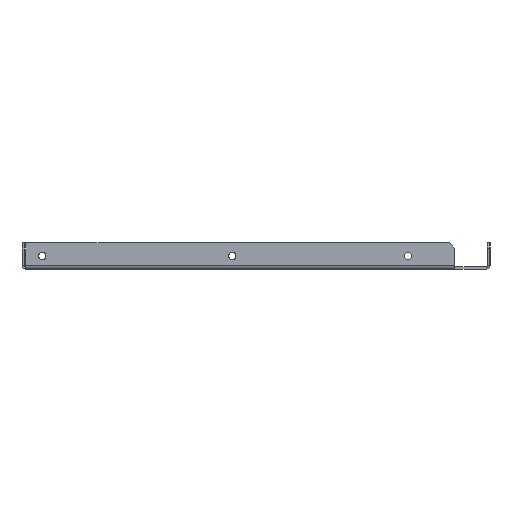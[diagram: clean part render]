
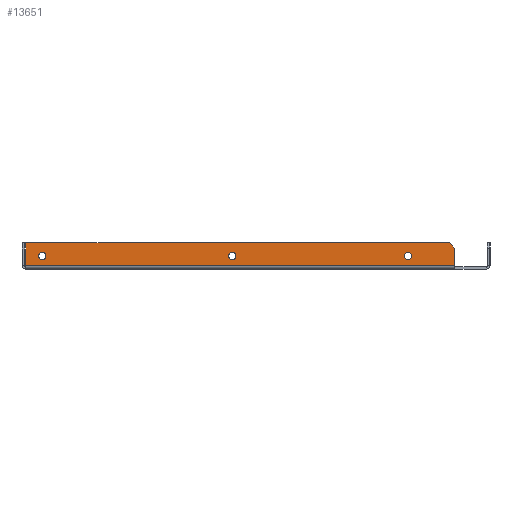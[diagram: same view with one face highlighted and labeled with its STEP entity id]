
A CAD part, left-side view. The second image highlights one B-rep face of the part: STEP entity #13651.
In plain terms, the highlighted planar face has unit normal (-1, 0, 0).
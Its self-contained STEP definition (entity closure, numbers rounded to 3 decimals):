
#5606=CARTESIAN_POINT(' ',(-234.5,-113.25,10.5));
#5607=VERTEX_POINT(' ',#5606);
#5621=CARTESIAN_POINT(' ',(-234.5,-113.25,10.5));
#5626=DIRECTION(' ',(0.,0.,-1.));
#5631=VECTOR(' ',#5626,1.);
#5636=LINE('',#5621,#5631);
#5641=CARTESIAN_POINT(' ',(-234.5,-113.25,0.6));
#5642=VERTEX_POINT(' ',#5641);
#5646=EDGE_CURVE(' ',#5607,#5642,#5636,.T.);
#9446=CARTESIAN_POINT(' ',(-234.5,-113.25,0.6));
#9451=DIRECTION(' ',(0.,1.,0.));
#9456=VECTOR(' ',#9451,1.);
#9461=LINE('',#9446,#9456);
#9466=CARTESIAN_POINT(' ',(-234.5,131.043,0.6));
#9467=VERTEX_POINT(' ',#9466);
#9471=EDGE_CURVE(' ',#5642,#9467,#9461,.T.);
#13176=CARTESIAN_POINT(' ',(-234.5,-113.25,10.5));
#13181=DIRECTION(' ',(0.,0.707,0.707));
#13186=VECTOR(' ',#13181,1.);
#13191=LINE('',#13176,#13186);
#13196=CARTESIAN_POINT(' ',(-234.5,-110.25,13.5));
#13197=VERTEX_POINT(' ',#13196);
#13201=EDGE_CURVE(' ',#5607,#13197,#13191,.T.);
#13266=DIRECTION(' ',(-1.,-0.,0.));
#13271=CARTESIAN_POINT(' ',(-234.5,-113.25,13.5));
#13276=DIRECTION(' ',(-0.,1.,0.));
#13281=AXIS2_PLACEMENT_3D(' ',#13271,#13266,#13276);
#13286=PLANE('NONE',#13281);
#13291=ORIENTED_EDGE(' ',*,*,#5646,.F.);
#13296=ORIENTED_EDGE(' ',*,*,#13201,.T.);
#13301=CARTESIAN_POINT(' ',(-234.5,-110.25,13.5));
#13306=DIRECTION(' ',(0.,1.,0.));
#13311=VECTOR(' ',#13306,1.);
#13316=LINE('',#13301,#13311);
#13321=CARTESIAN_POINT(' ',(-234.5,131.043,13.5));
#13322=VERTEX_POINT(' ',#13321);
#13326=EDGE_CURVE(' ',#13197,#13322,#13316,.T.);
#13331=ORIENTED_EDGE(' ',*,*,#13326,.T.);
#13336=CARTESIAN_POINT(' ',(-234.5,131.043,0.6));
#13341=DIRECTION(' ',(0.,0.,1.));
#13346=VECTOR(' ',#13341,1.);
#13351=LINE('',#13336,#13346);
#13356=EDGE_CURVE(' ',#9467,#13322,#13351,.T.);
#13361=ORIENTED_EDGE(' ',*,*,#13356,.F.);
#13366=ORIENTED_EDGE(' ',*,*,#9471,.F.);
#13371=EDGE_LOOP(' ',(#13291,#13296,#13331,#13361,#13366));
#13376=FACE_OUTER_BOUND(' ',#13371,.T.);
#13381=CARTESIAN_POINT(' ',(-234.5,121.75,6.));
#13386=DIRECTION(' ',(-1.,-0.,0.));
#13391=DIRECTION(' ',(0.,0.,1.));
#13396=AXIS2_PLACEMENT_3D(' ',#13381,#13386,#13391);
#13401=CIRCLE('',#13396,2.1);
#13406=CARTESIAN_POINT(' ',(-234.5,121.75,8.1));
#13407=VERTEX_POINT(' ',#13406);
#13411=CARTESIAN_POINT(' ',(-234.5,121.75,3.9));
#13412=VERTEX_POINT(' ',#13411);
#13416=EDGE_CURVE(' ',#13407,#13412,#13401,.T.);
#13421=ORIENTED_EDGE(' ',*,*,#13416,.F.);
#13426=CARTESIAN_POINT(' ',(-234.5,121.75,6.));
#13431=DIRECTION(' ',(-1.,0.,0.));
#13436=DIRECTION(' ',(0.,0.,-1.));
#13441=AXIS2_PLACEMENT_3D(' ',#13426,#13431,#13436);
#13446=CIRCLE('',#13441,2.1);
#13451=EDGE_CURVE(' ',#13412,#13407,#13446,.T.);
#13456=ORIENTED_EDGE(' ',*,*,#13451,.F.);
#13461=EDGE_LOOP(' ',(#13421,#13456));
#13466=FACE_BOUND(' ',#13461,.T.);
#13471=CARTESIAN_POINT(' ',(-234.5,-86.5,6.));
#13476=DIRECTION(' ',(-1.,-0.,0.));
#13481=DIRECTION(' ',(0.,0.,1.));
#13486=AXIS2_PLACEMENT_3D(' ',#13471,#13476,#13481);
#13491=CIRCLE('',#13486,2.1);
#13496=CARTESIAN_POINT(' ',(-234.5,-86.5,8.1));
#13497=VERTEX_POINT(' ',#13496);
#13501=CARTESIAN_POINT(' ',(-234.5,-86.5,3.9));
#13502=VERTEX_POINT(' ',#13501);
#13506=EDGE_CURVE(' ',#13497,#13502,#13491,.T.);
#13511=ORIENTED_EDGE(' ',*,*,#13506,.F.);
#13516=CARTESIAN_POINT(' ',(-234.5,-86.5,6.));
#13521=DIRECTION(' ',(-1.,0.,0.));
#13526=DIRECTION(' ',(0.,0.,-1.));
#13531=AXIS2_PLACEMENT_3D(' ',#13516,#13521,#13526);
#13536=CIRCLE('',#13531,2.1);
#13541=EDGE_CURVE(' ',#13502,#13497,#13536,.T.);
#13546=ORIENTED_EDGE(' ',*,*,#13541,.F.);
#13551=EDGE_LOOP(' ',(#13511,#13546));
#13556=FACE_BOUND(' ',#13551,.T.);
#13561=CARTESIAN_POINT(' ',(-234.5,13.5,6.));
#13566=DIRECTION(' ',(-1.,-0.,0.));
#13571=DIRECTION(' ',(0.,0.,1.));
#13576=AXIS2_PLACEMENT_3D(' ',#13561,#13566,#13571);
#13581=CIRCLE('',#13576,2.1);
#13586=CARTESIAN_POINT(' ',(-234.5,13.5,8.1));
#13587=VERTEX_POINT(' ',#13586);
#13591=CARTESIAN_POINT(' ',(-234.5,13.5,3.9));
#13592=VERTEX_POINT(' ',#13591);
#13596=EDGE_CURVE(' ',#13587,#13592,#13581,.T.);
#13601=ORIENTED_EDGE(' ',*,*,#13596,.F.);
#13606=CARTESIAN_POINT(' ',(-234.5,13.5,6.));
#13611=DIRECTION(' ',(-1.,0.,0.));
#13616=DIRECTION(' ',(0.,0.,-1.));
#13621=AXIS2_PLACEMENT_3D(' ',#13606,#13611,#13616);
#13626=CIRCLE('',#13621,2.1);
#13631=EDGE_CURVE(' ',#13592,#13587,#13626,.T.);
#13636=ORIENTED_EDGE(' ',*,*,#13631,.F.);
#13641=EDGE_LOOP(' ',(#13601,#13636));
#13646=FACE_BOUND(' ',#13641,.T.);
#13651=ADVANCED_FACE('NONE',(#13376,#13466,#13556,#13646),#13286,.T.);
